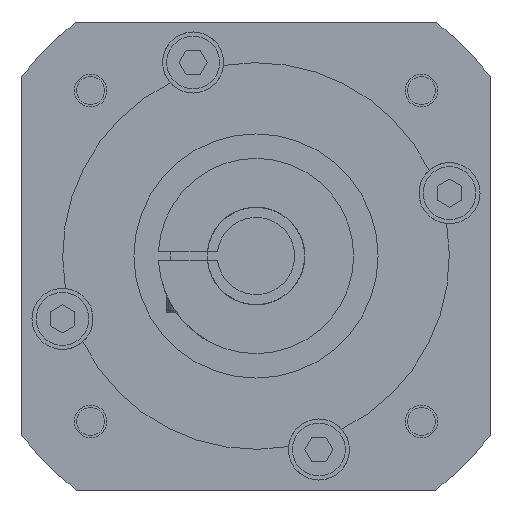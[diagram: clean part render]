
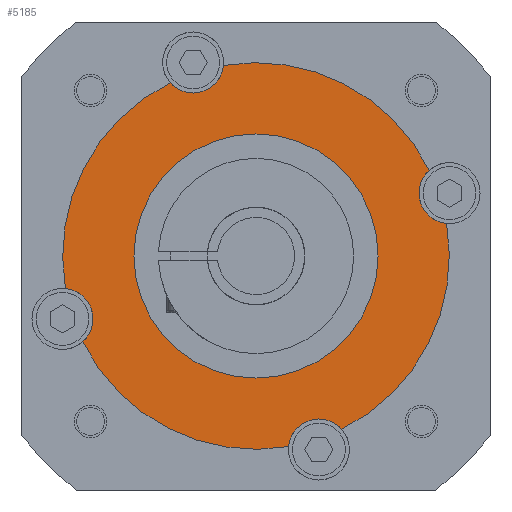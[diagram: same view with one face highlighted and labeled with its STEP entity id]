
A CAD part, left-side view. The second image highlights one B-rep face of the part: STEP entity #5185.
In plain terms, the highlighted planar face has unit normal (-1, 0, 0).
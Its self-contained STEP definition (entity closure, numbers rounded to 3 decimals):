
#1054=CARTESIAN_POINT('',(4.4,0.,0.));
#1055=DIRECTION('',(-1.,0.,0.));
#1056=DIRECTION('',(0.,-0.443,-0.896));
#1057=AXIS2_PLACEMENT_3D('',#1054,#1055,#1056);
#1094=CARTESIAN_POINT('',(4.4,0.,0.));
#1095=DIRECTION('',(-1.,0.,0.));
#1096=DIRECTION('',(0.,0.443,0.896));
#1097=AXIS2_PLACEMENT_3D('',#1094,#1095,#1096);
#1103=CARTESIAN_POINT('',(4.4,-47.553,15.451));
#1104=DIRECTION('',(-1.,0.,0.));
#1105=DIRECTION('',(0.,0.664,0.748));
#1106=AXIS2_PLACEMENT_3D('',#1103,#1104,#1105);
#1108=CARTESIAN_POINT('',(4.4,-15.451,-47.553));
#1109=DIRECTION('',(-1.,0.,0.));
#1110=DIRECTION('',(0.,-0.748,0.664));
#1111=AXIS2_PLACEMENT_3D('',#1108,#1109,#1110);
#1113=CARTESIAN_POINT('',(4.4,-15.451,-47.553));
#1114=DIRECTION('',(-1.,0.,0.));
#1115=DIRECTION('',(0.,0.,1.));
#1116=AXIS2_PLACEMENT_3D('',#1113,#1114,#1115);
#1118=CARTESIAN_POINT('',(4.4,0.,0.));
#1119=DIRECTION('',(1.,0.,0.));
#1120=DIRECTION('',(0.,-0.168,-0.986));
#1121=AXIS2_PLACEMENT_3D('',#1118,#1119,#1120);
#1123=CARTESIAN_POINT('',(4.4,47.553,-15.451));
#1124=DIRECTION('',(-1.,0.,0.));
#1125=DIRECTION('',(0.,-0.664,-0.748));
#1126=AXIS2_PLACEMENT_3D('',#1123,#1124,#1125);
#1128=CARTESIAN_POINT('',(4.4,15.451,47.553));
#1129=DIRECTION('',(-1.,0.,0.));
#1130=DIRECTION('',(0.,0.748,-0.664));
#1131=AXIS2_PLACEMENT_3D('',#1128,#1129,#1130);
#1133=CARTESIAN_POINT('',(4.4,15.451,47.553));
#1134=DIRECTION('',(-1.,0.,0.));
#1135=DIRECTION('',(0.,0.,-1.));
#1136=AXIS2_PLACEMENT_3D('',#1133,#1134,#1135);
#1138=CARTESIAN_POINT('',(4.4,0.,0.));
#1139=DIRECTION('',(-1.,0.,0.));
#1140=DIRECTION('',(0.,-0.896,0.443));
#1141=AXIS2_PLACEMENT_3D('',#1138,#1139,#1140);
#1143=CARTESIAN_POINT('',(4.4,0.,0.));
#1144=DIRECTION('',(1.,0.,0.));
#1145=DIRECTION('',(0.,-1.,0.));
#1146=AXIS2_PLACEMENT_3D('',#1143,#1144,#1145);
#1156=CARTESIAN_POINT('',(4.4,0.,0.));
#1157=DIRECTION('',(-1.,0.,0.));
#1158=DIRECTION('',(0.,-1.,0.));
#1159=AXIS2_PLACEMENT_3D('',#1156,#1157,#1158);
#3352=CARTESIAN_POINT('',(4.4,-15.451,-40.053));
#3353=VERTEX_POINT('',#3352);
#3354=CARTESIAN_POINT('',(4.4,15.451,40.053));
#3355=VERTEX_POINT('',#3354);
#3536=CARTESIAN_POINT('',(4.4,-30.,0.));
#3538=VERTEX_POINT('',#3536);
#3540=CARTESIAN_POINT('',(4.4,30.,0.));
#3542=VERTEX_POINT('',#3540);
#3712=CARTESIAN_POINT('',(4.4,-21.061,-42.576));
#3713=VERTEX_POINT('',#3712);
#3714=CARTESIAN_POINT('',(4.4,-7.986,-46.824));
#3715=VERTEX_POINT('',#3714);
#3716=CARTESIAN_POINT('',(4.4,42.576,-21.061));
#3717=VERTEX_POINT('',#3716);
#3719=CARTESIAN_POINT('',(4.4,46.824,-7.986));
#3721=VERTEX_POINT('',#3719);
#3722=CARTESIAN_POINT('',(4.4,-42.576,21.061));
#3723=CARTESIAN_POINT('',(4.4,-46.824,7.986));
#3724=VERTEX_POINT('',#3722);
#3725=VERTEX_POINT('',#3723);
#3726=CARTESIAN_POINT('',(4.4,7.986,46.824));
#3727=VERTEX_POINT('',#3726);
#3728=CARTESIAN_POINT('',(4.4,21.061,42.576));
#3729=VERTEX_POINT('',#3728);
#5159=CARTESIAN_POINT('',(4.4,0.,0.));
#5160=DIRECTION('',(1.,0.,0.));
#5161=DIRECTION('',(0.,1.,0.));
#5162=AXIS2_PLACEMENT_3D('',#5159,#5160,#5161);
#5163=PLANE('',#5162);
#5164=ORIENTED_EDGE('',*,*,#4979,.T.);
#5165=ORIENTED_EDGE('',*,*,#5122,.F.);
#5166=ORIENTED_EDGE('',*,*,#5076,.T.);
#5167=ORIENTED_EDGE('',*,*,#5098,.T.);
#5168=ORIENTED_EDGE('',*,*,#5139,.T.);
#5170=ORIENTED_EDGE('',*,*,#5169,.T.);
#5171=ORIENTED_EDGE('',*,*,#5152,.F.);
#5173=ORIENTED_EDGE('',*,*,#5172,.T.);
#5175=ORIENTED_EDGE('',*,*,#5174,.T.);
#5176=ORIENTED_EDGE('',*,*,#5109,.F.);
#5177=EDGE_LOOP('',(#5164,#5165,#5166,#5167,#5168,#5170,#5171,#5173,#5175,
#5176));
#5178=FACE_OUTER_BOUND('',#5177,.F.);
#5180=ORIENTED_EDGE('',*,*,#5179,.F.);
#5182=ORIENTED_EDGE('',*,*,#5181,.T.);
#5183=EDGE_LOOP('',(#5180,#5182));
#5184=FACE_BOUND('',#5183,.F.);
#1058=CIRCLE('',#1057,47.5);
#1098=CIRCLE('',#1097,47.5);
#1107=CIRCLE('',#1106,7.5);
#1112=CIRCLE('',#1111,7.5);
#1117=CIRCLE('',#1116,7.5);
#1122=CIRCLE('',#1121,47.5);
#1127=CIRCLE('',#1126,7.5);
#1132=CIRCLE('',#1131,7.5);
#1137=CIRCLE('',#1136,7.5);
#1142=CIRCLE('',#1141,47.5);
#1147=CIRCLE('',#1146,30.);
#1160=CIRCLE('',#1159,30.);
#4979=EDGE_CURVE('',#3724,#3725,#1107,.T.);
#5076=EDGE_CURVE('',#3713,#3353,#1112,.T.);
#5098=EDGE_CURVE('',#3353,#3715,#1117,.T.);
#5109=EDGE_CURVE('',#3724,#3727,#1142,.T.);
#5122=EDGE_CURVE('',#3713,#3725,#1058,.T.);
#5139=EDGE_CURVE('',#3715,#3717,#1122,.T.);
#5152=EDGE_CURVE('',#3729,#3721,#1098,.T.);
#5169=EDGE_CURVE('',#3717,#3721,#1127,.T.);
#5172=EDGE_CURVE('',#3729,#3355,#1132,.T.);
#5174=EDGE_CURVE('',#3355,#3727,#1137,.T.);
#5179=EDGE_CURVE('',#3538,#3542,#1147,.T.);
#5181=EDGE_CURVE('',#3538,#3542,#1160,.T.);
#5185=ADVANCED_FACE('',(#5178,#5184),#5163,.F.);
